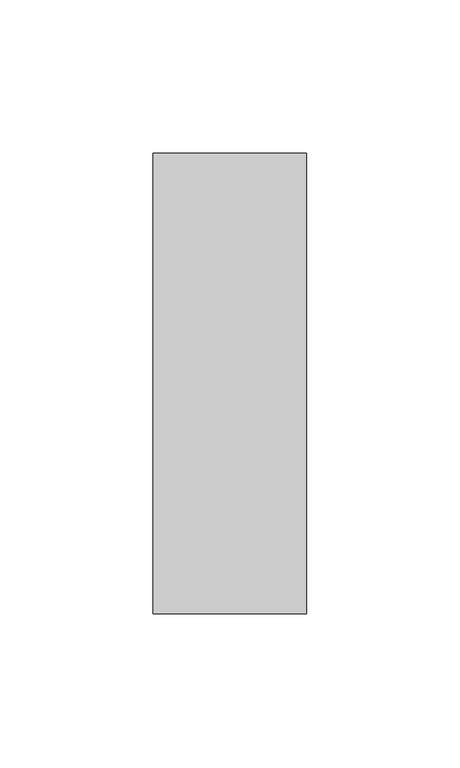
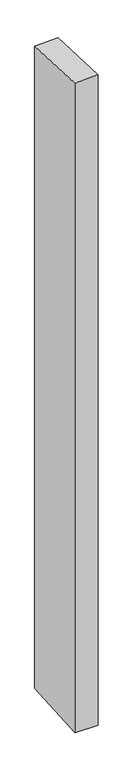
"""IFC4 building model written with IfcOpenShell, lengths in millimetres: member geometry, Прямоугольный импост : 50 x 150 мм."""

from ifc_helpers import new_model, si_unit, origin, place, context, project, spatial, faceted_brep, source, transform, mapped, element, save


def member_f2982bab(model_context):
    return source(origin(), model_context, "Body", "Brep", [
        faceted_brep([(-25.0, 75.0, -4.1426695), (25.0, 75.0, -2.8554655), (25.0, 75.0, -1467.3676908), (-25.0, 75.0, -1466.1653112), (-25.0, -75.0, 2.8554655), (-25.0, -75.0, -1476.0457509), (25.0, -75.0, 4.1426695), (25.0, -75.0, -1477.2481305)], [[[0, 1, 2, 3]], [[4, 0, 3, 5]], [[6, 4, 5, 7]], [[1, 6, 7, 2]], [[1, 0, 4, 6]], [[2, 7, 5, 3]]]),
    ])


if __name__ == "__main__":
    model = new_model("IFC4")
    model_context = context("Model", 3, world=origin())
    ifc_project = project(units=[si_unit("LENGTHUNIT", "METRE", prefix="MILLI")], contexts=[model_context])
    site = spatial("IfcSite", under=ifc_project)
    building = spatial("IfcBuilding", under=site)
    placement = place(None, origin())
    member_shape = member_f2982bab(model_context)
    element("IfcMember", 1, ObjectType="Прямоугольный импост : 50 x 150 мм", at=placement, inside=building, context=model_context, shape_type="MappedRepresentation", body=[
        mapped(member_shape, transform((0.0, 0.0, 0.0), x_axis=(1.0, 0.0, 0.0), y_axis=(0.0, 1.0, 0.0), z_axis=(0.0, 0.0, 1.0))),
    ])
    save(model, "model.ifc")
